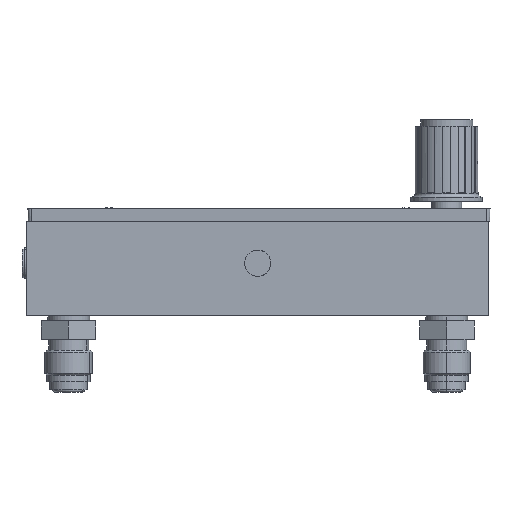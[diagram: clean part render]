
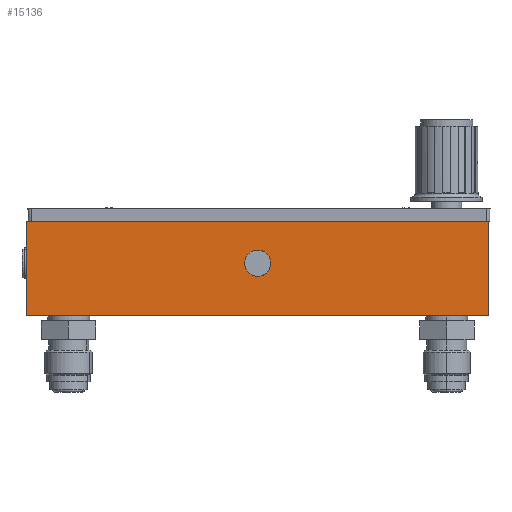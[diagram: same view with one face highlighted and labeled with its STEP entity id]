
A CAD part, left-side view. The second image highlights one B-rep face of the part: STEP entity #15136.
In plain terms, the highlighted planar face has unit normal (-1, 0, 0).
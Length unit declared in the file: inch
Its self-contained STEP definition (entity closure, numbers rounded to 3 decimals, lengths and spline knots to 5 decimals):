
#107 = LINE ( 'NONE', #7475, #5518 ) ;
#393 = ORIENTED_EDGE ( 'NONE', *, *, #12756, .F. ) ;
#910 = DIRECTION ( 'NONE',  ( 0., -1., 0. ) ) ;
#1290 = CARTESIAN_POINT ( 'NONE',  ( -0.625, 2.75, 0.78125 ) ) ;
#1444 = CARTESIAN_POINT ( 'NONE',  ( -0.625, 2.75, 0.625 ) ) ;
#1796 = ORIENTED_EDGE ( 'NONE', *, *, #12343, .T. ) ;
#1882 = VERTEX_POINT ( 'NONE', #9016 ) ;
#1922 = DIRECTION ( 'NONE',  ( 0., -1., 0. ) ) ;
#2190 = DIRECTION ( 'NONE',  ( 1., 0., 0. ) ) ;
#2203 = AXIS2_PLACEMENT_3D ( 'NONE', #12915, #11467, #10411 ) ;
#2284 = VECTOR ( 'NONE', #15703, 39.37008 ) ;
#2681 = AXIS2_PLACEMENT_3D ( 'NONE', #13244, #2190, #15427 ) ;
#3682 = VECTOR ( 'NONE', #1922, 39.37008 ) ;
#3891 = CARTESIAN_POINT ( 'NONE',  ( -0.625, 0., 0. ) ) ;
#4002 = VECTOR ( 'NONE', #910, 39.37008 ) ;
#4726 = DIRECTION ( 'NONE',  ( 0., 0., 1. ) ) ;
#5037 = VERTEX_POINT ( 'NONE', #8688 ) ;
#5518 = VECTOR ( 'NONE', #4726, 39.37008 ) ;
#6379 = ORIENTED_EDGE ( 'NONE', *, *, #8243, .T. ) ;
#6383 = EDGE_CURVE ( 'NONE', #12122, #1882, #14826, .T. ) ;
#7041 = CARTESIAN_POINT ( 'NONE',  ( -0.625, 5.5, 1.125 ) ) ;
#7382 = EDGE_CURVE ( 'NONE', #15560, #5037, #14408, .T. ) ;
#7475 = CARTESIAN_POINT ( 'NONE',  ( -0.625, 5.5, 0. ) ) ;
#7688 = CIRCLE ( 'NONE', #9768, 0.15625 ) ;
#8162 = ORIENTED_EDGE ( 'NONE', *, *, #7382, .T. ) ;
#8243 = EDGE_CURVE ( 'NONE', #1882, #12122, #7688, .T. ) ;
#8688 = CARTESIAN_POINT ( 'NONE',  ( -0.625, 0., 1.125 ) ) ;
#8866 = CARTESIAN_POINT ( 'NONE',  ( -0.625, 5.5, 0. ) ) ;
#8867 = DIRECTION ( 'NONE',  ( 0., 0., -1. ) ) ;
#9016 = CARTESIAN_POINT ( 'NONE',  ( -0.625, 2.75, 0.46875 ) ) ;
#9768 = AXIS2_PLACEMENT_3D ( 'NONE', #1444, #9993, #8867 ) ;
#9993 = DIRECTION ( 'NONE',  ( 1., 0., 0. ) ) ;
#10096 = FACE_OUTER_BOUND ( 'NONE', #10297, .T. ) ;
#10297 = EDGE_LOOP ( 'NONE', ( #8162, #393, #15597, #1796 ) ) ;
#10411 = DIRECTION ( 'NONE',  ( 0., 0., -1. ) ) ;
#10490 = EDGE_LOOP ( 'NONE', ( #6379, #12648 ) ) ;
#11296 = EDGE_CURVE ( 'NONE', #14247, #13111, #107, .T. ) ;
#11467 = DIRECTION ( 'NONE',  ( 1., 0., 0. ) ) ;
#12122 = VERTEX_POINT ( 'NONE', #1290 ) ;
#12343 = EDGE_CURVE ( 'NONE', #14247, #15560, #12820, .T. ) ;
#12528 = FACE_BOUND ( 'NONE', #10490, .T. ) ;
#12648 = ORIENTED_EDGE ( 'NONE', *, *, #6383, .T. ) ;
#12756 = EDGE_CURVE ( 'NONE', #13111, #5037, #14457, .T. ) ;
#12820 = LINE ( 'NONE', #14174, #3682 ) ;
#12915 = CARTESIAN_POINT ( 'NONE',  ( -0.625, 2.75, 0.625 ) ) ;
#13111 = VERTEX_POINT ( 'NONE', #14681 ) ;
#13244 = CARTESIAN_POINT ( 'NONE',  ( -0.625, 5.5, 0. ) ) ;
#14174 = CARTESIAN_POINT ( 'NONE',  ( -0.625, 5.5, 0. ) ) ;
#14247 = VERTEX_POINT ( 'NONE', #8866 ) ;
#14408 = LINE ( 'NONE', #15465, #2284 ) ;
#14457 = LINE ( 'NONE', #7041, #4002 ) ;
#14681 = CARTESIAN_POINT ( 'NONE',  ( -0.625, 5.5, 1.125 ) ) ;
#14826 = CIRCLE ( 'NONE', #2203, 0.15625 ) ;
#15015 = PLANE ( 'NONE',  #2681 ) ;
#15136 = ADVANCED_FACE ( 'NONE', ( #12528, #10096 ), #15015, .F. ) ;
#15427 = DIRECTION ( 'NONE',  ( 0., 0., -1. ) ) ;
#15465 = CARTESIAN_POINT ( 'NONE',  ( -0.625, 0., 0. ) ) ;
#15560 = VERTEX_POINT ( 'NONE', #3891 ) ;
#15597 = ORIENTED_EDGE ( 'NONE', *, *, #11296, .F. ) ;
#15703 = DIRECTION ( 'NONE',  ( 0., 0., 1. ) ) ;
